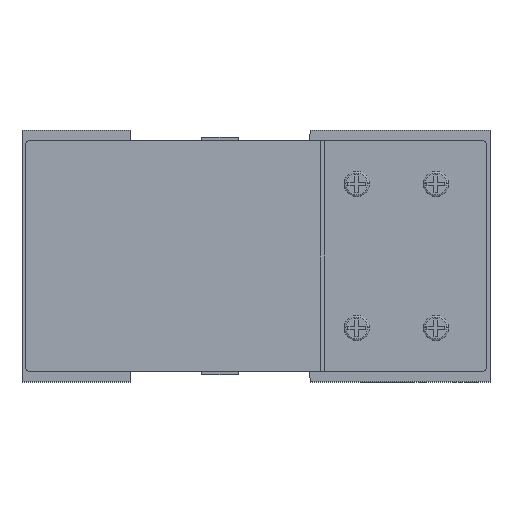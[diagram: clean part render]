
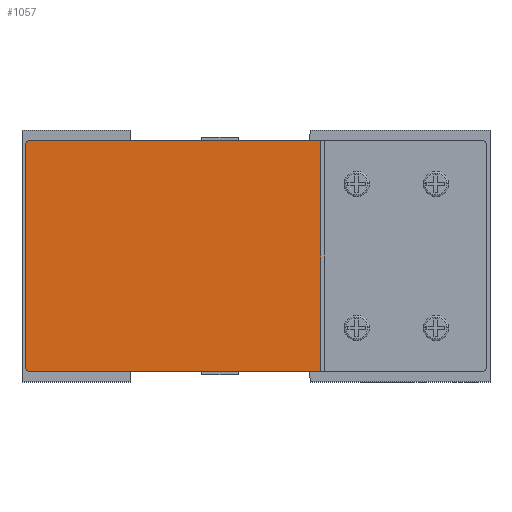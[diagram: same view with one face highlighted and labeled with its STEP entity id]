
A CAD part, front view. The second image highlights one B-rep face of the part: STEP entity #1057.
In plain terms, the highlighted planar face has unit normal (0, -1, 0) as drawn and (0, 0, -1) by its records, which use the part's own axes.
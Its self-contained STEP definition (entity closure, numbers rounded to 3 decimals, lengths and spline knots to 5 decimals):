
#1057=ADVANCED_FACE('0:1144',(#2048),#2049,.F.);
#2048=FACE_OUTER_BOUND('',#3058,.T.);
#2049=PLANE('',#3059);
#3058=EDGE_LOOP('',(#5228,#5229,#5230,#5231,#5232,#5233));
#3059=AXIS2_PLACEMENT_3D('',#5234,#5235,#5236);
#5228=ORIENTED_EDGE('',*,*,#6769,.F.);
#5229=ORIENTED_EDGE('',*,*,#6771,.T.);
#5230=ORIENTED_EDGE('',*,*,#6772,.T.);
#5231=ORIENTED_EDGE('',*,*,#6761,.F.);
#5232=ORIENTED_EDGE('',*,*,#6754,.F.);
#5233=ORIENTED_EDGE('',*,*,#6759,.F.);
#5234=CARTESIAN_POINT('',(0.06631,-0.02463,-0.0168));
#5235=DIRECTION('',(0.,0.,1.0));
#5236=DIRECTION('',(1.0,0.,0.0));
#6754=EDGE_CURVE('0:1237',#8121,#8123,#8124,.T.);
#6759=EDGE_CURVE('0:1249',#8129,#8121,#8131,.T.);
#6761=EDGE_CURVE('0:1252',#8123,#8133,#8134,.T.);
#6769=EDGE_CURVE('0:1270',#8143,#8129,#8145,.T.);
#6771=EDGE_CURVE('0:1273',#8143,#8147,#8148,.T.);
#6772=EDGE_CURVE('0:1276',#8147,#8133,#8149,.T.);
#8121=VERTEX_POINT('',#9945);
#8123=VERTEX_POINT('',#9948);
#8124=LINE('',#9949,#9950);
#8129=VERTEX_POINT('',#9957);
#8131=LINE('',#9960,#9961);
#8133=VERTEX_POINT('',#9963);
#8134=CIRCLE('',#9964,0.001);
#8143=VERTEX_POINT('',#9976);
#8145=LINE('',#9979,#9980);
#8147=VERTEX_POINT('',#9982);
#8148=CIRCLE('',#9983,0.001);
#8149=LINE('',#9984,#9985);
#9945=CARTESIAN_POINT('',(-0.01569,-0.02463,-0.0168));
#9948=CARTESIAN_POINT('',(0.06531,-0.02463,-0.0168));
#9949=CARTESIAN_POINT('',(0.06631,-0.02463,-0.0168));
#9950=VECTOR('',#11467,1.0);
#9957=CARTESIAN_POINT('',(-0.01569,0.03937,-0.0168));
#9960=CARTESIAN_POINT('',(-0.01569,-0.02463,-0.0168));
#9961=VECTOR('',#11471,1.0);
#9963=CARTESIAN_POINT('',(0.06631,-0.02363,-0.0168));
#9964=AXIS2_PLACEMENT_3D('',#11472,#11473,#11474);
#9976=CARTESIAN_POINT('',(0.06531,0.03937,-0.0168));
#9979=CARTESIAN_POINT('',(0.06631,0.03937,-0.0168));
#9980=VECTOR('',#11482,1.0);
#9982=CARTESIAN_POINT('',(0.06631,0.03837,-0.0168));
#9983=AXIS2_PLACEMENT_3D('',#11483,#11484,#11485);
#9984=CARTESIAN_POINT('',(0.06631,-0.02463,-0.0168));
#9985=VECTOR('',#11486,1.0);
#11467=DIRECTION('',(1.0,0.,0.));
#11471=DIRECTION('',(0.,-1.0,0.));
#11472=CARTESIAN_POINT('',(0.06531,-0.02363,-0.0168));
#11473=DIRECTION('',(0.0,0.,1.0));
#11474=DIRECTION('',(-1.0,0.0,0.0));
#11482=DIRECTION('',(-1.0,0.,0.));
#11483=CARTESIAN_POINT('',(0.06531,0.03837,-0.0168));
#11484=DIRECTION('',(0.0,0.,-1.0));
#11485=DIRECTION('',(-1.0,0.0,0.0));
#11486=DIRECTION('',(0.,-1.0,0.));
